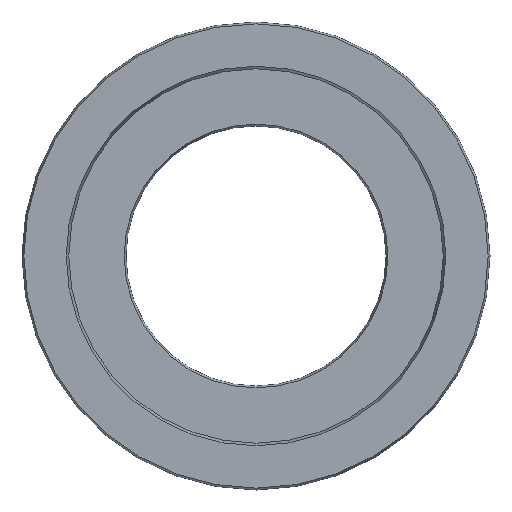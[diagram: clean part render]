
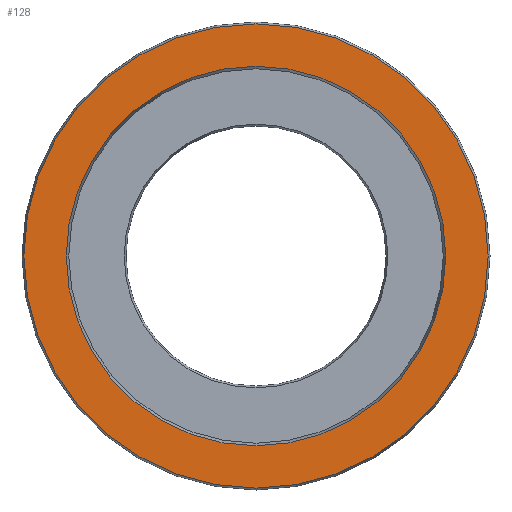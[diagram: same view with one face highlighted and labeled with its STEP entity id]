
A CAD part, left-side view. The second image highlights one B-rep face of the part: STEP entity #128.
In plain terms, the highlighted planar face has unit normal (-1, 0, 0).
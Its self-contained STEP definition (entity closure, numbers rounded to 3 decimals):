
#128=ADVANCED_FACE('',(#175,#176),#145,.T.);
#145=PLANE('',#412);
#175=FACE_BOUND('',#227,.T.);
#176=FACE_BOUND('',#228,.T.);
#227=EDGE_LOOP('',(#279));
#228=EDGE_LOOP('',(#280));
#279=ORIENTED_EDGE('',*,*,#344,.T.);
#280=ORIENTED_EDGE('',*,*,#345,.F.);
#318=VERTEX_POINT('',#583);
#319=VERTEX_POINT('',#585);
#344=EDGE_CURVE('',#318,#318,#370,.T.);
#345=EDGE_CURVE('',#319,#319,#371,.T.);
#370=CIRCLE('',#410,44.636);
#371=CIRCLE('',#411,36.5);
#410=AXIS2_PLACEMENT_3D('',#582,#490,#491);
#411=AXIS2_PLACEMENT_3D('',#584,#492,#493);
#412=AXIS2_PLACEMENT_3D('',#586,#494,#495);
#490=DIRECTION('',(-1.,0.,0.));
#491=DIRECTION('',(0.,0.,1.));
#492=DIRECTION('',(-1.,0.,0.));
#493=DIRECTION('',(0.,0.,1.));
#494=DIRECTION('',(-1.,0.,0.));
#495=DIRECTION('',(0.,0.,1.));
#582=CARTESIAN_POINT('',(0.,0.,0.));
#583=CARTESIAN_POINT('',(0.,0.,44.636));
#584=CARTESIAN_POINT('',(0.,0.,0.));
#585=CARTESIAN_POINT('',(0.,0.,36.5));
#586=CARTESIAN_POINT('',(0.,36.5,0.));
